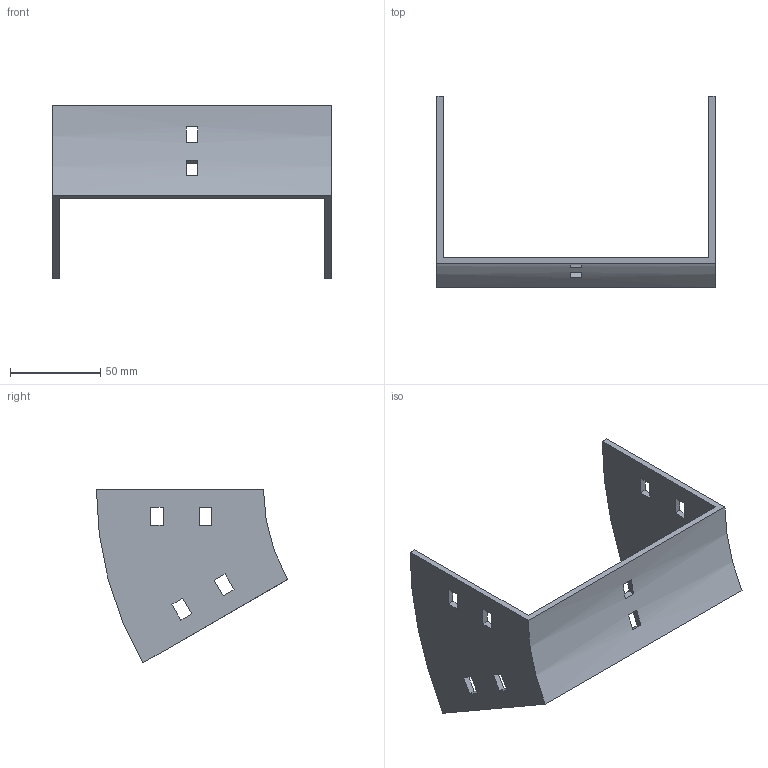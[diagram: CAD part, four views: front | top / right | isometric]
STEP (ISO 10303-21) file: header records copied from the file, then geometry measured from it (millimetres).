
FILE_DESCRIPTION (( 'STEP AP214' ), '1' );
FILE_NAME ('35B1I150.step', '2025-02-21T09:26:53', ( '' ), ( '' ), 'SwSTEP 2.0', 'SolidWorks 2023', '' );
FILE_SCHEMA (( 'AUTOMOTIVE_DESIGN' ));
Length unit declared in the file: millimetre
Products named in the file (1): 35B1I150
Bounding box: 154 x 105.9 x 96.25 mm (x, y, z)
Volume: 74618.6 mm3; surface area: 46834.4 mm2
Topology: 1 solids, 1 shells, 50 faces, 144 edges, 96 vertices
Faces by surface type: plane 46, cylinder 4
Entity records: 1687 total; most frequent: CARTESIAN_POINT 291, ORIENTED_EDGE 288, DIRECTION 262, EDGE_CURVE 144, VECTOR 128, LINE 128, VERTEX_POINT 96, EDGE_LOOP 70
